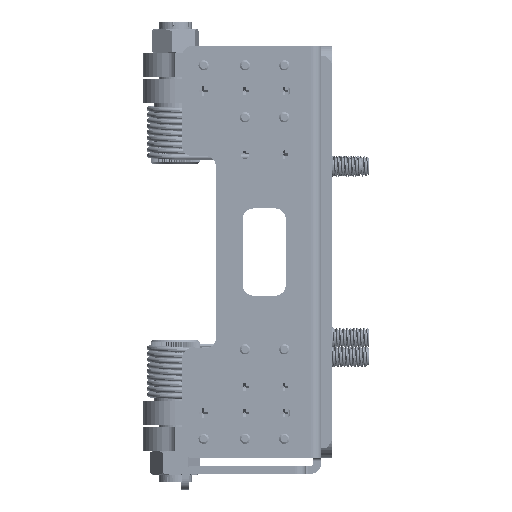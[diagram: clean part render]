
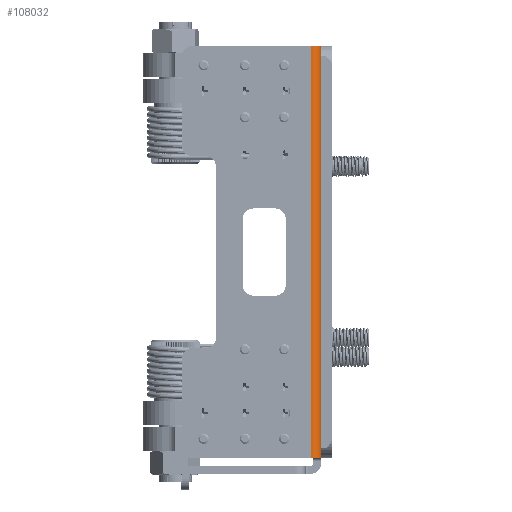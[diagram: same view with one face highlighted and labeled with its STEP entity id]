
A CAD part, left-side view. The second image highlights one B-rep face of the part: STEP entity #108032.
In plain terms, the highlighted cylindrical face has radius 3.048 mm (diameter 6.096 mm), a partial arc.
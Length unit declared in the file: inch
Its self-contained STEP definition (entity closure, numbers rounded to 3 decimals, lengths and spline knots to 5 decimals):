
#6842 = CIRCLE ( 'NONE', #230384, 0.12 ) ;
#9506 = AXIS2_PLACEMENT_3D ( 'NONE', #92061, #91754, #91348 ) ;
#19853 = CARTESIAN_POINT ( 'NONE',  ( -16.19303, 0.245, -2.3622 ) ) ;
#22705 = CARTESIAN_POINT ( 'NONE',  ( -16.07303, 0.125, -2.3622 ) ) ;
#23721 = ORIENTED_EDGE ( 'NONE', *, *, #210813, .F. ) ;
#24597 = EDGE_CURVE ( 'NONE', #87941, #47099, #311453, .T. ) ;
#44643 = EDGE_CURVE ( 'NONE', #80133, #87941, #147475, .T. ) ;
#47099 = VERTEX_POINT ( 'NONE', #160186 ) ;
#49958 = CARTESIAN_POINT ( 'NONE',  ( -16.19303, 0.245, -2.3622 ) ) ;
#52735 = CARTESIAN_POINT ( 'NONE',  ( -16.07303, 0.125, -2.3622 ) ) ;
#67932 = ORIENTED_EDGE ( 'NONE', *, *, #316656, .T. ) ;
#68955 = CARTESIAN_POINT ( 'NONE',  ( -16.07303, 0.245, -21.81594 ) ) ;
#80133 = VERTEX_POINT ( 'NONE', #19853 ) ;
#87941 = VERTEX_POINT ( 'NONE', #52735 ) ;
#91348 = DIRECTION ( 'NONE',  ( 1., 0., 0. ) ) ;
#91754 = DIRECTION ( 'NONE',  ( 0., 0., 1. ) ) ;
#92061 = CARTESIAN_POINT ( 'NONE',  ( -16.07303, 0.245, -2.3622 ) ) ;
#92542 = ORIENTED_EDGE ( 'NONE', *, *, #44643, .T. ) ;
#108032 = ADVANCED_FACE ( 'NONE', ( #194237 ), #254798, .T. ) ;
#111698 = DIRECTION ( 'NONE',  ( 0., 0., -1. ) ) ;
#147475 = CIRCLE ( 'NONE', #9506, 0.12 ) ;
#150202 = AXIS2_PLACEMENT_3D ( 'NONE', #68955, #275200, #223283 ) ;
#160146 = DIRECTION ( 'NONE',  ( 0., 0., 1. ) ) ;
#160186 = CARTESIAN_POINT ( 'NONE',  ( -16.07303, 0.125, 2.3622 ) ) ;
#170832 = VERTEX_POINT ( 'NONE', #171804 ) ;
#171804 = CARTESIAN_POINT ( 'NONE',  ( -16.19303, 0.245, 2.3622 ) ) ;
#184261 = EDGE_LOOP ( 'NONE', ( #204639, #67932, #23721, #92542 ) ) ;
#194237 = FACE_OUTER_BOUND ( 'NONE', #184261, .T. ) ;
#204167 = DIRECTION ( 'NONE',  ( 0., 0., 1. ) ) ;
#204639 = ORIENTED_EDGE ( 'NONE', *, *, #24597, .T. ) ;
#210813 = EDGE_CURVE ( 'NONE', #80133, #170832, #244980, .T. ) ;
#223283 = DIRECTION ( 'NONE',  ( 1., 0., 0. ) ) ;
#230384 = AXIS2_PLACEMENT_3D ( 'NONE', #266098, #111698, #291989 ) ;
#242869 = VECTOR ( 'NONE', #160146, 39.37008 ) ;
#244980 = LINE ( 'NONE', #49958, #313569 ) ;
#254798 = CYLINDRICAL_SURFACE ( 'NONE', #150202, 0.12 ) ;
#266098 = CARTESIAN_POINT ( 'NONE',  ( -16.07303, 0.245, 2.3622 ) ) ;
#275200 = DIRECTION ( 'NONE',  ( 0., 0., 1. ) ) ;
#291989 = DIRECTION ( 'NONE',  ( 1., 0., 0. ) ) ;
#311453 = LINE ( 'NONE', #22705, #242869 ) ;
#313569 = VECTOR ( 'NONE', #204167, 39.37008 ) ;
#316656 = EDGE_CURVE ( 'NONE', #47099, #170832, #6842, .T. ) ;
